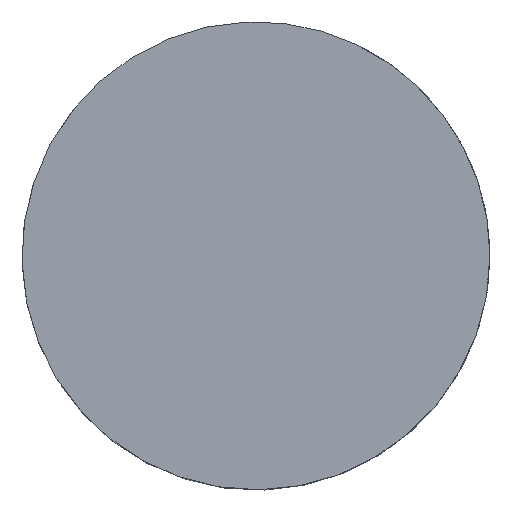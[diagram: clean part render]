
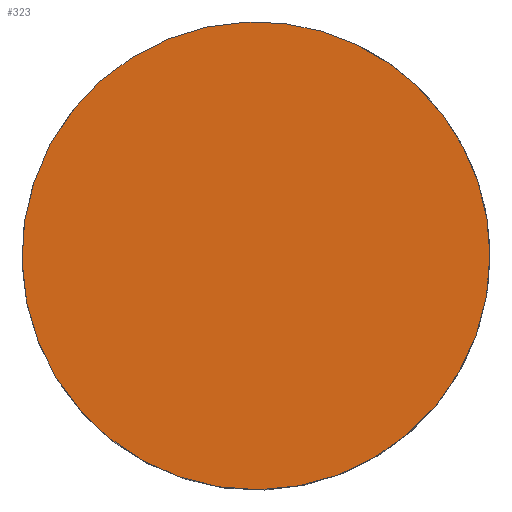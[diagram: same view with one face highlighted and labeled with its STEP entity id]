
A CAD part, top view. The second image highlights one B-rep face of the part: STEP entity #323.
In plain terms, the highlighted planar face has unit normal (0, 0, 1).
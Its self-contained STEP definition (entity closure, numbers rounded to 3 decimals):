
#32=PLANE('',#381);
#83=FACE_OUTER_BOUND('',#135,.T.);
#135=EDGE_LOOP('',(#278));
#164=CIRCLE('',#380,30.);
#192=VERTEX_POINT('',#582);
#222=EDGE_CURVE('',#192,#192,#164,.T.);
#278=ORIENTED_EDGE('',*,*,#222,.T.);
#323=ADVANCED_FACE('',(#83),#32,.T.);
#380=AXIS2_PLACEMENT_3D('',#583,#493,#494);
#381=AXIS2_PLACEMENT_3D('',#584,#495,#496);
#493=DIRECTION('center_axis',(0.,0.,1.));
#494=DIRECTION('ref_axis',(-1.,0.,0.));
#495=DIRECTION('center_axis',(0.,0.,1.));
#496=DIRECTION('ref_axis',(1.,0.,0.));
#582=CARTESIAN_POINT('',(30.,0.,32.5));
#583=CARTESIAN_POINT('Origin',(0.,0.,32.5));
#584=CARTESIAN_POINT('Origin',(0.,0.,32.5));
